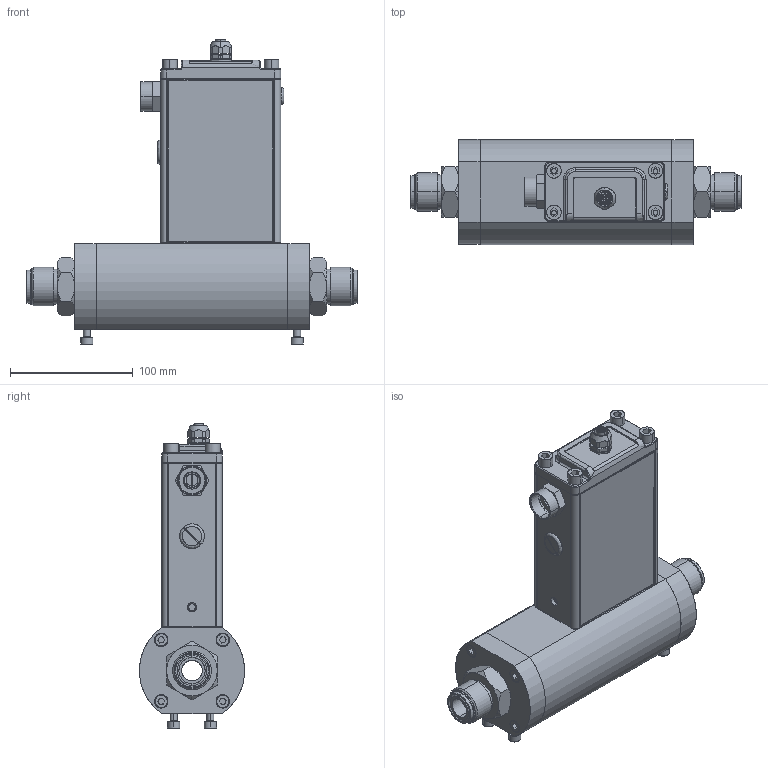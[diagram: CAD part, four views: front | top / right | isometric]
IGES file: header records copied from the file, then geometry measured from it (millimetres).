
Start section: SolidWorks IGES file using analytic representation for surfaces
Global section: file name: G:\Engineering\CAD MODELS FOR SALES\CAD MODEL STORAGE\SLA\SLAMF63\CUSTOMER FILES\IGES\SLAMF63-T-2U-0-A-RevB.IGS; native system: SolidWorks 2014; preprocessor: SolidWorks 2014; author: CFehr; date: 170303.095237; units: inch
Bounding box: 270.85 x 86.01 x 249.24 mm (x, y, z)
Surface area: 156168.9 mm2 (no closed solid volume)
Topology: 0 solids, 0 shells, 541 faces, 7720 edges, 7714 vertices
Faces by surface type: bspline 299, revolution 242
